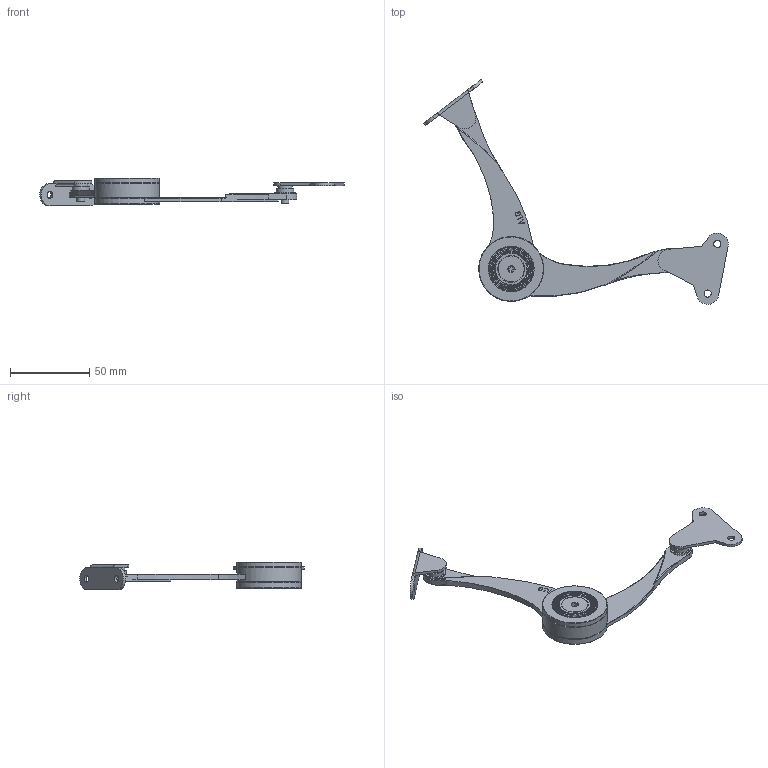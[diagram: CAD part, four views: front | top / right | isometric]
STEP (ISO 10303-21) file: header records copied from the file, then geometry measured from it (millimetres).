
FILE_DESCRIPTION(/* description */ (''),/* implementation_level */ '2;1');
FILE_NAME(/* name */ 'D:\$Workingspace\Designs\Katalog\Cadsoft\Akcesoria\PD-GPD0_-_\PD-GPD0_podnośnik.stp',/* time_stamp */ '2021-01-15T11:44:57+01:00',/* author */ ('tomaszw'),/* organization */ (''),/* preprocessor_version */ 'ST-DEVELOPER v18.1',/* originating_system */ 'Autodesk Inventor 2020',/* authorisation */ '');
FILE_SCHEMA (('AUTOMOTIVE_DESIGN { 1 0 10303 214 3 1 1 }'));
Length unit declared in the file: millimetre
Products named in the file (6): PD-GPD01-001_P; PD-GPD0_-_-2; PD-GPD0_-_-1; PD-GPD0_-_-3; Moc1_1; Moc1_2
Assembly tree (6 placements, depth 2):
  PD-GPD01-001_P
    PD-GPD0_-_-2
    PD-GPD0_-_-1
    PD-GPD0_-_-3  x2
    Moc1_1
    Moc1_2
Bounding box: 192.72 x 142.07 x 17.5 mm (x, y, z)
Volume: 34308 mm3; surface area: 21198.1 mm2
Topology: 6 solids, 6 shells, 1108 faces, 3655 edges, 2580 vertices
Faces by surface type: plane 767, cylinder 291, bspline 32, torus 14, cone 4
Full cylindrical faces by diameter (mm): 4.5 x4, 4.9 x2, 5 x3, 7 x4, 9 x2, 9.2 x2, 11 x2, 13 x2, 16.5 x1, 17 x1, 19 x1, 20 x1, 29 x1, 30 x1, 39 x1, 41 x3
Entity records: 48362 total; most frequent: CARTESIAN_POINT 16317, ORIENTED_EDGE 7252, DIRECTION 5440, EDGE_CURVE 3626, VERTEX_POINT 2560, LINE 2058, VECTOR 2058, AXIS2_PLACEMENT_3D 1691
